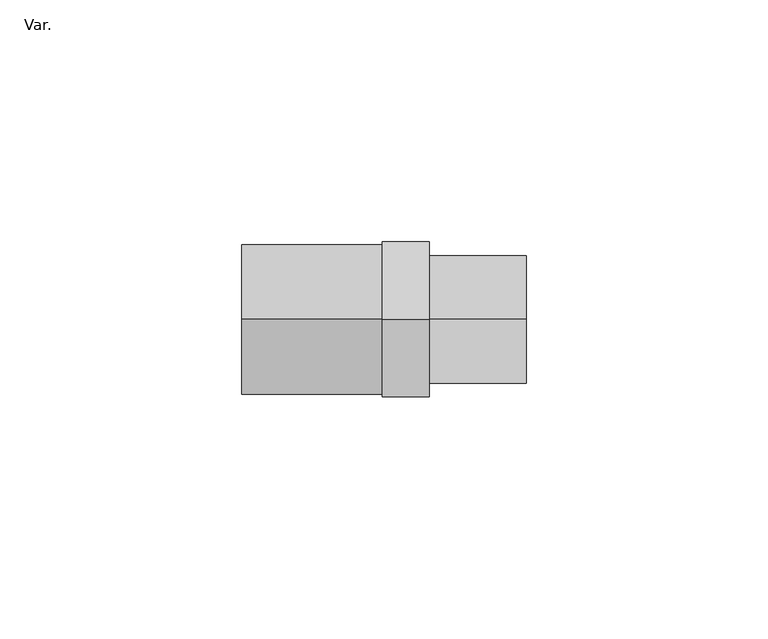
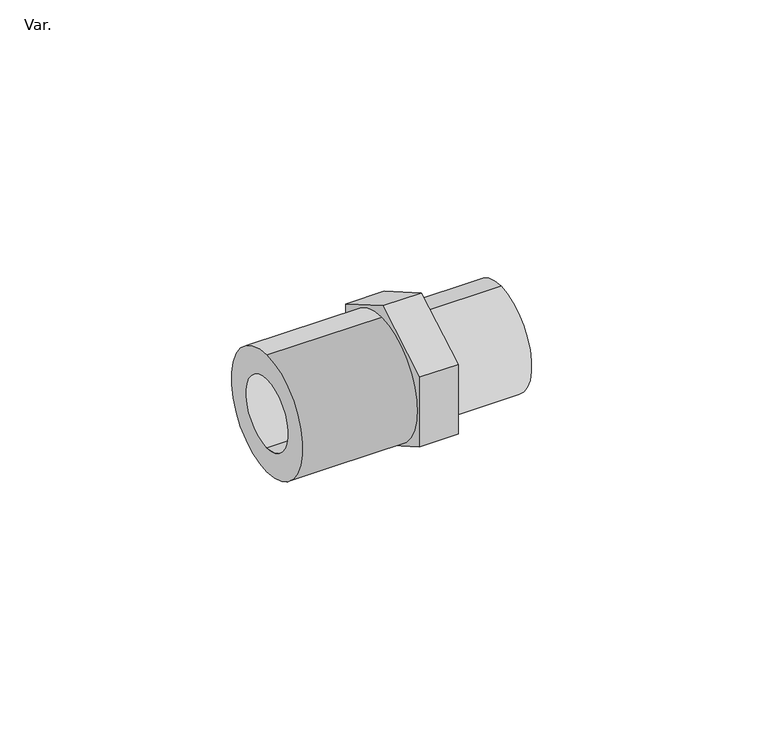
"""IFC4 building model written with IfcOpenShell, lengths in millimetres: pipe fitting geometry, Wavin Tigris K1 Manifold Female to Male Thread : Var.."""

from ifc_helpers import new_model, si_unit, point, frame, origin, origin_2d, place, context, project, spatial, polyline, circle_curve, trimmed, segment, composite_curve, outline, extrude, source, transform, mapped, element, save
from ifc_brep_helpers import plane_surface, cylinder_surface, revolved_surface, advanced_brep


def var_9b609cd4(model_context):
    return source(origin(), model_context, "Body", "SolidModel", [
        extrude(outline(composite_curve([segment(trimmed(circle_curve(origin_2d(), 13.25), [point((0.0, 13.25))], [point((0.0, -13.25))], False, "CARTESIAN"), True, "CONTINUOUS"), segment(trimmed(circle_curve(origin_2d(), 13.25), [point((0.0, -13.25))], [point((0.0, 13.25))], False, "CARTESIAN"), True, "CONTINUOUS")], self_intersect=False)), frame((-20.0, 0.0, 0.0), z_axis=(1.0, 0.0, 0.0), x_axis=(0.0, 1.0, 0.0)), (0.0, 0.0, 1.0), 20.0),
        extrude(outline(polyline([(16.0, -9.2376043), (0.0, -18.4752086), (-16.0, -9.2376043), (-16.0, 9.2376043), (0.0, 18.4752086), (16.0, 9.2376043), (16.0, -9.2376043)])), frame((-29.7, 0.0, 0.0), z_axis=(1.0, 0.0, 0.0), x_axis=(0.0, 1.0, 0.0)), (0.0, 0.0, 1.0), 9.7),
        advanced_brep(
        [(-29.7, 0.0, -15.5), (-29.7, 0.0, 15.5), (-58.7, 0.0, -15.5), (-58.7, 0.0, 15.5), (-58.7, 0.0, 9.05), (-58.7, 0.0, -9.05), (-38.2, 0.0, 9.05), (-38.2, 0.0, -9.05)],
        [
            (0, 1, circle_curve(frame((-29.7, 0.0, 0.0), z_axis=(1.0, 0.0, 0.0), x_axis=(0.0, 0.0, 1.0)), 15.5)),
            (1, 0, circle_curve(frame((-29.7, 0.0, 0.0), z_axis=(1.0, 0.0, 0.0), x_axis=(0.0, 0.0, 1.0)), 15.5)),
            (2, 3, circle_curve(frame((-58.7, 0.0, 0.0), z_axis=(-1.0, 0.0, 0.0), x_axis=(0.0, 0.0, 1.0)), 15.5)),
            (3, 2, circle_curve(frame((-58.7, 0.0, 0.0), z_axis=(-1.0, 0.0, 0.0), x_axis=(0.0, 0.0, 1.0)), 15.5)),
            (4, 5, circle_curve(frame((-58.7, 0.0, 0.0), z_axis=(1.0, 0.0, 0.0), x_axis=(0.0, 0.0, -1.0)), 9.05)),
            (5, 4, circle_curve(frame((-58.7, 0.0, 0.0), z_axis=(1.0, 0.0, 0.0), x_axis=(0.0, 0.0, -1.0)), 9.05)),
            (1, 3),
            (2, 0),
            (6, 7, circle_curve(frame((-38.2, 0.0, 0.0), z_axis=(-1.0, 0.0, 0.0), x_axis=(0.0, 0.0, -1.0)), 9.05)),
            (7, 6, circle_curve(frame((-38.2, 0.0, 0.0), z_axis=(-1.0, 0.0, 0.0), x_axis=(0.0, 0.0, -1.0)), 9.05)),
            (7, 5),
            (4, 6),
        ],
        [
            plane_surface(frame((-29.7, 0.0, 15.5), z_axis=(1.0, 0.0, 0.0), x_axis=(0.0, -1.0, 0.0))),
            plane_surface(frame((-58.7, 0.0, 15.5), z_axis=(-1.0, 0.0, 0.0), x_axis=(0.0, 1.0, 0.0))),
            cylinder_surface(frame((-29.7, 0.0, 0.0), z_axis=(-1.0, 0.0, 0.0), x_axis=(0.0, 0.0, 1.0)), 15.5),
            plane_surface(frame((-38.2, 0.0, -9.05), z_axis=(-1.0, 0.0, 0.0), x_axis=(0.0, 1.0, 0.0))),
            revolved_surface(polyline([(-38.2, 0.0, -9.05), (-58.7, 0.0, -9.05)]), (-58.7, 0.0, 0.0), (1.0, 0.0, 0.0)),
        ],
        [
            (0, [[1, 2]]),
            (1, [[3, 4], [5, 6]]),
            (2, [[-2, 7, -3, 8]]),
            (2, [[-1, -8, -4, -7]]),
            (3, [[9, 10]]),
            (4, [[-10, 11, -5, 12]]),
            (4, [[-9, -12, -6, -11]]),
        ],
    ),
    ])


if __name__ == "__main__":
    model = new_model("IFC4")
    model_context = context("Model", 3, world=origin())
    ifc_project = project(units=[si_unit("LENGTHUNIT", "METRE", prefix="MILLI")], contexts=[model_context])
    site = spatial("IfcSite", under=ifc_project)
    building = spatial("IfcBuilding", under=site)
    placement = place(None, origin())
    var_shape = var_9b609cd4(model_context)
    element("IfcPipeFitting", 1, ObjectType="Wavin Tigris K1 Manifold Female to Male Thread : Var.", at=placement, inside=building, context=model_context, shape_type="MappedRepresentation", body=[
        mapped(var_shape, transform((0.0, 0.0, 0.0), x_axis=(1.0, 0.0, 0.0), y_axis=(0.0, 1.0, 0.0), z_axis=(0.0, 0.0, 1.0))),
    ])
    save(model, "model.ifc")
